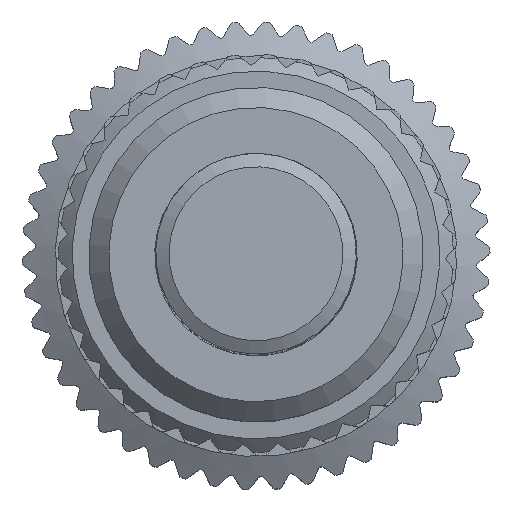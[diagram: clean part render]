
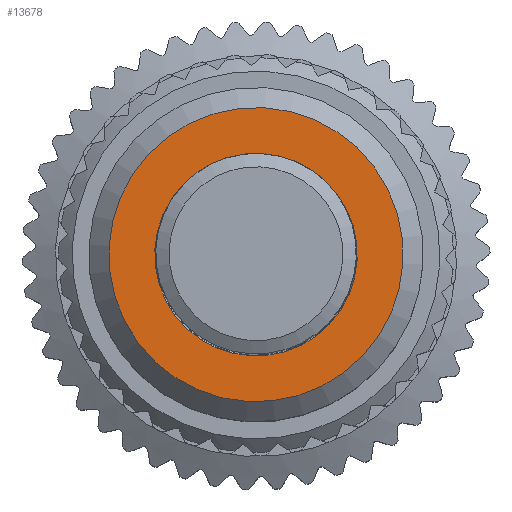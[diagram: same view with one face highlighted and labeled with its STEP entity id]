
A CAD part, top view. The second image highlights one B-rep face of the part: STEP entity #13678.
In plain terms, the highlighted planar face has unit normal (0, 0, 1).
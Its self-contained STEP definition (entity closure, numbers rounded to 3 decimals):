
#3095=PLANE($,#14457);
#3404=FACE_BOUND($,#4215,.T.);
#3446=FACE_OUTER_BOUND($,#4214,.T.);
#4214=EDGE_LOOP($,(#9225));
#4215=EDGE_LOOP($,(#9226));
#5018=CIRCLE($,#14452,3.03);
#5022=CIRCLE($,#14458,4.4);
#5513=VERTEX_POINT($,#18970);
#5517=VERTEX_POINT($,#18980);
#7000=EDGE_CURVE($,#5513,#5513,#5018,.T.);
#7004=EDGE_CURVE($,#5517,#5517,#5022,.T.);
#9225=ORIENTED_EDGE($,*,*,#7004,.F.);
#9226=ORIENTED_EDGE($,*,*,#7000,.F.);
#13678=ADVANCED_FACE($,(#3446,#3404),#3095,.F.);
#14452=AXIS2_PLACEMENT_3D($,#18971,#15660,#15661);
#14457=AXIS2_PLACEMENT_3D($,#18979,#15670,#15671);
#14458=AXIS2_PLACEMENT_3D($,#18981,#15672,#15673);
#15660=DIRECTION('center_axis',(0.,0.,
1.));
#15661=DIRECTION('ref_axis',(-0.993,-0.115,0.));
#15670=DIRECTION('center_axis',(0.,0.,
-1.));
#15671=DIRECTION('ref_axis',(-0.993,-0.115,0.));
#15672=DIRECTION('center_axis',(0.,0.,
-1.));
#15673=DIRECTION('ref_axis',(-0.993,-0.115,0.));
#18970=CARTESIAN_POINT('',(3.01,0.347,26.343));
#18971=CARTESIAN_POINT('Origin',(0.,0.,
26.343));
#18979=CARTESIAN_POINT('Origin',(0.,0.,
26.343));
#18980=CARTESIAN_POINT('',(4.371,0.505,26.343));
#18981=CARTESIAN_POINT('Origin',(0.,0.,
26.343));
